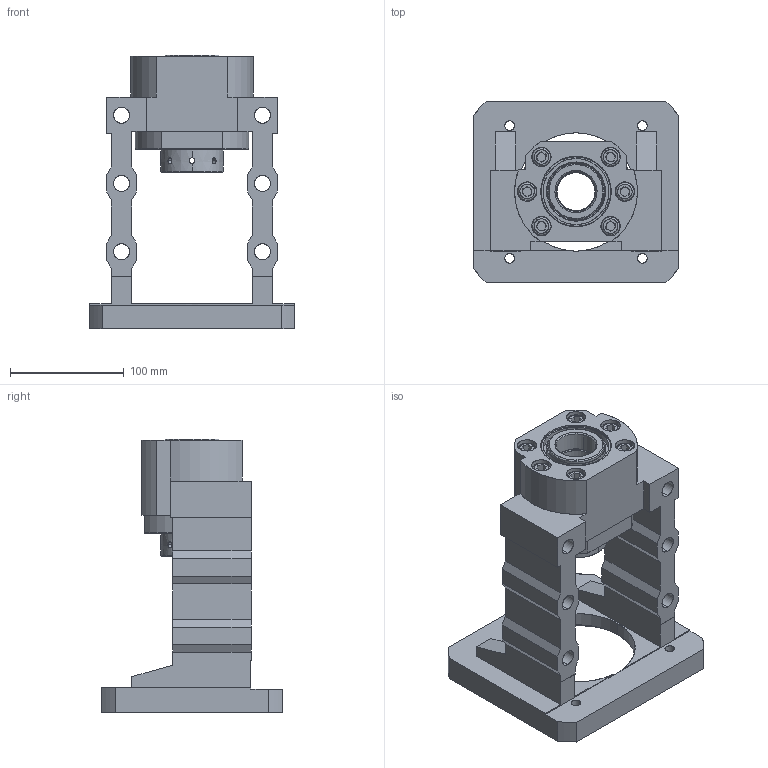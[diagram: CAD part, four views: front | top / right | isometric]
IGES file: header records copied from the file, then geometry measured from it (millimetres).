
Start section: SolidWorks IGES file using analytic representation for surfaces
Bounding box: 180 x 160 x 241 mm (x, y, z)
Surface area: 231649.3 mm2 (no closed solid volume)
Topology: 0 solids, 0 shells, 345 faces, 6024 edges, 6016 vertices
Faces by surface type: revolution 180, bspline 165
